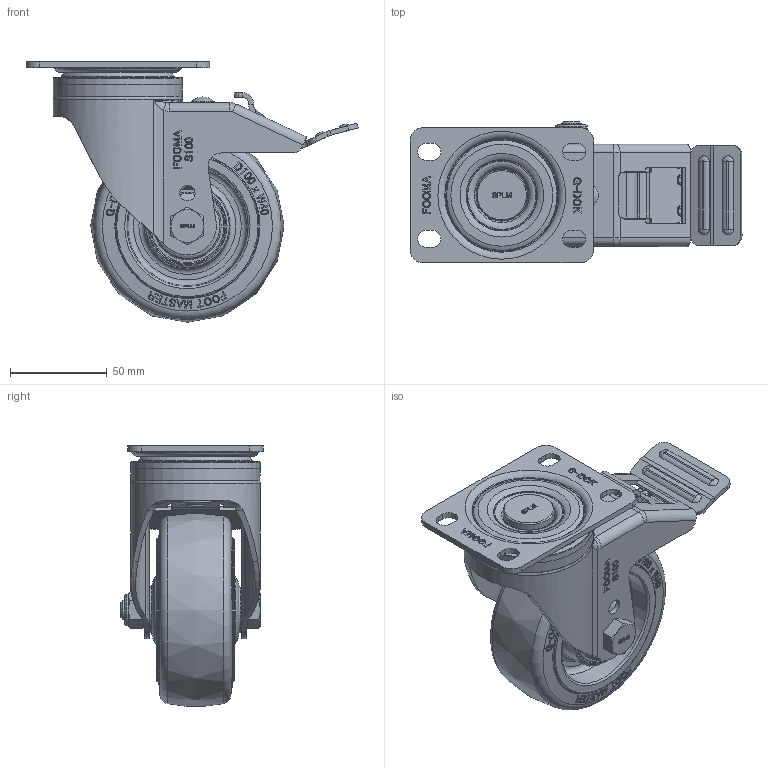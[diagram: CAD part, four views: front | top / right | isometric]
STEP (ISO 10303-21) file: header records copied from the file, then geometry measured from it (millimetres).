
FILE_DESCRIPTION(/* description */ (''),/* implementation_level */ '2;1');
FILE_NAME(/* name */ '\\192.168.10.38\지덕공유\1.기술연구소\2.연구개발 진행중\98.스테인레스캐스터 개발건_2023.10.26\제품설계\3D\홈페이지용\SPLM-100-BSF-HRD.stp',/* time_stamp */ '2025-02-20T08:35:15+09:00',/* author */ ('admin'),/* organization */ ('지덕산업'),/* preprocessor_version */ 'ST-DEVELOPER v18.1',/* originating_system */ 'Autodesk Inventor 2021',/* authorisation */ '');
FILE_SCHEMA (('CONFIG_CONTROL_DESIGN'));
Products named in the file (1): SPLM-100-BSF-HRD
Bounding box: 171.79 x 73.5 x 134.83 mm (x, y, z)
Volume: 382579 mm3; surface area: 92268.8 mm2
Topology: 1 solids, 1 shells, 1518 faces, 4029 edges, 2626 vertices
Faces by surface type: plane 674, bspline 498, cylinder 184, cone 109, torus 52, sphere 1
Full cylindrical faces by diameter (mm): 6 x1, 8 x2, 9 x1, 10 x2, 11 x1, 12 x1, 16 x2, 16.5 x1, 26.6 x1, 30 x1, 40.105 x1, 40.971 x1, 54 x1, 67 x1
Entity records: 51506 total; most frequent: CARTESIAN_POINT 18212, ORIENTED_EDGE 8050, DIRECTION 5151, EDGE_CURVE 4025, VERTEX_POINT 2626, LINE 1895, VECTOR 1895, EDGE_LOOP 1655
